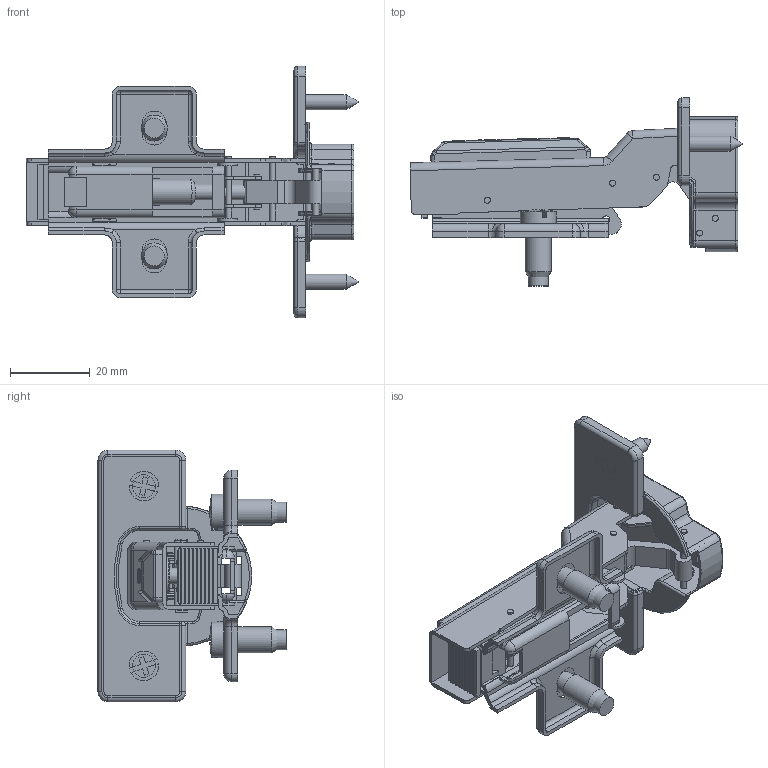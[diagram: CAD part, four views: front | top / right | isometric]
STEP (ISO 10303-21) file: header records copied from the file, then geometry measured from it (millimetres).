
FILE_DESCRIPTION(/* description */ (''),/* implementation_level */ '2;1');
FILE_NAME(/* name */ 'W:\R&D\pub\Katalog techniczny\bryły 3D\ZM-ECHC08ZEO.stp',/* time_stamp */ '2016-09-13T13:13:58+02:00',/* author */ ('tomaszw'),/* organization */ (''),/* preprocessor_version */ 'ST-DEVELOPER v16.1',/* originating_system */ 'Autodesk Inventor 2016',/* authorisation */ '');
FILE_SCHEMA (('AUTOMOTIVE_DESIGN { 1 0 10303 214 3 1 1 }'));
Length unit declared in the file: millimetre
Products named in the file (18): ZM-ECHC0-P-H0; ZM-ECHC0_2; ZM-ECHC0_1; ZM-ECHC0_4-FI35_45_w; ZM-ECHC08; ZM-ECHC0_Pin2; ZM-ECHC0_Pin1; Euro; Wkret4x6; ZM-ECHC0_5; ZM-ECHC0_6; ZM-ECHC0_7; ZM-ECHC0_3_8; ZM-ECHC0_8_8; ZM-ECHC0-NP; ZM-ECHC0-NR; Wkret4x16; ZM-ECHC07(8)(9)ZEO(BEO)(48-ZE)(2ZE)(ZED)
Assembly tree (23 placements, depth 2):
  ZM-ECHC07(8)(9)ZEO(BEO)(48-ZE)(2ZE)(ZED)
    ZM-ECHC0-P-H0
    ZM-ECHC0_2
    ZM-ECHC0_1
    ZM-ECHC0_4-FI35_45_w
    ZM-ECHC08
    ZM-ECHC0_Pin2  x4
    ZM-ECHC0_Pin1  x2
    Euro  x2
    Wkret4x6
    ZM-ECHC0_5
    ZM-ECHC0_6
    ZM-ECHC0_7
    ZM-ECHC0_3_8
    ZM-ECHC0_8_8
    ZM-ECHC0-NP
    ZM-ECHC0-NR
    Wkret4x16  x2
Bounding box: 83.15 x 47.1 x 63 mm (x, y, z)
Volume: 14139.6 mm3; surface area: 30419.6 mm2
Topology: 25 solids, 25 shells, 1421 faces, 3547 edges, 2195 vertices
Faces by surface type: plane 612, cylinder 456, bspline 181, torus 92, sphere 54, cone 26
Full cylindrical faces by diameter (mm): 1.5 x34, 3.8 x2, 4 x2, 5 x3, 5.5 x2, 6 x1, 6.5 x4, 7 x1, 8 x1, 9 x2
Entity records: 45727 total; most frequent: CARTESIAN_POINT 11956, ORIENTED_EDGE 6732, DIRECTION 6518, EDGE_CURVE 3366, AXIS2_PLACEMENT_3D 2280, VERTEX_POINT 2114, LINE 1958, VECTOR 1958
